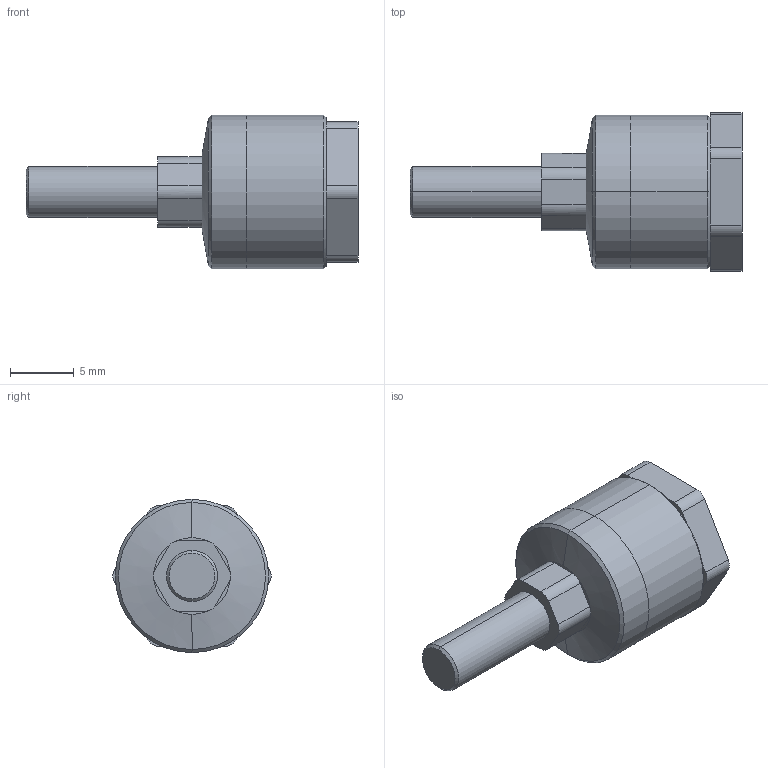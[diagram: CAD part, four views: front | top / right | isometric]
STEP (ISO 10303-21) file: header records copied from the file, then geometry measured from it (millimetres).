
FILE_DESCRIPTION (( 'STEP AP203' ), '1' );
FILE_NAME ('FCM4-0.7.STEP', '2016-03-23T03:39:32', ( 'Sam Lin' ), ( '' ), 'SwSTEP 2.0', 'SolidWorks 2013', '' );
FILE_SCHEMA (( 'CONFIG_CONTROL_DESIGN' ));
Length unit declared in the file: millimetre
Products named in the file (1): FCM4-0.7
Bounding box: 26 x 12.39 x 12 mm (x, y, z)
Volume: 1484.4 mm3; surface area: 936.5 mm2
Topology: 1 solids, 1 shells, 69 faces, 162 edges, 95 vertices
Faces by surface type: plane 39, cylinder 20, cone 10
Entity records: 2033 total; most frequent: DIRECTION 382, CARTESIAN_POINT 325, ORIENTED_EDGE 320, EDGE_CURVE 160, AXIS2_PLACEMENT_3D 152, VERTEX_POINT 95, CIRCLE 82, LINE 78
